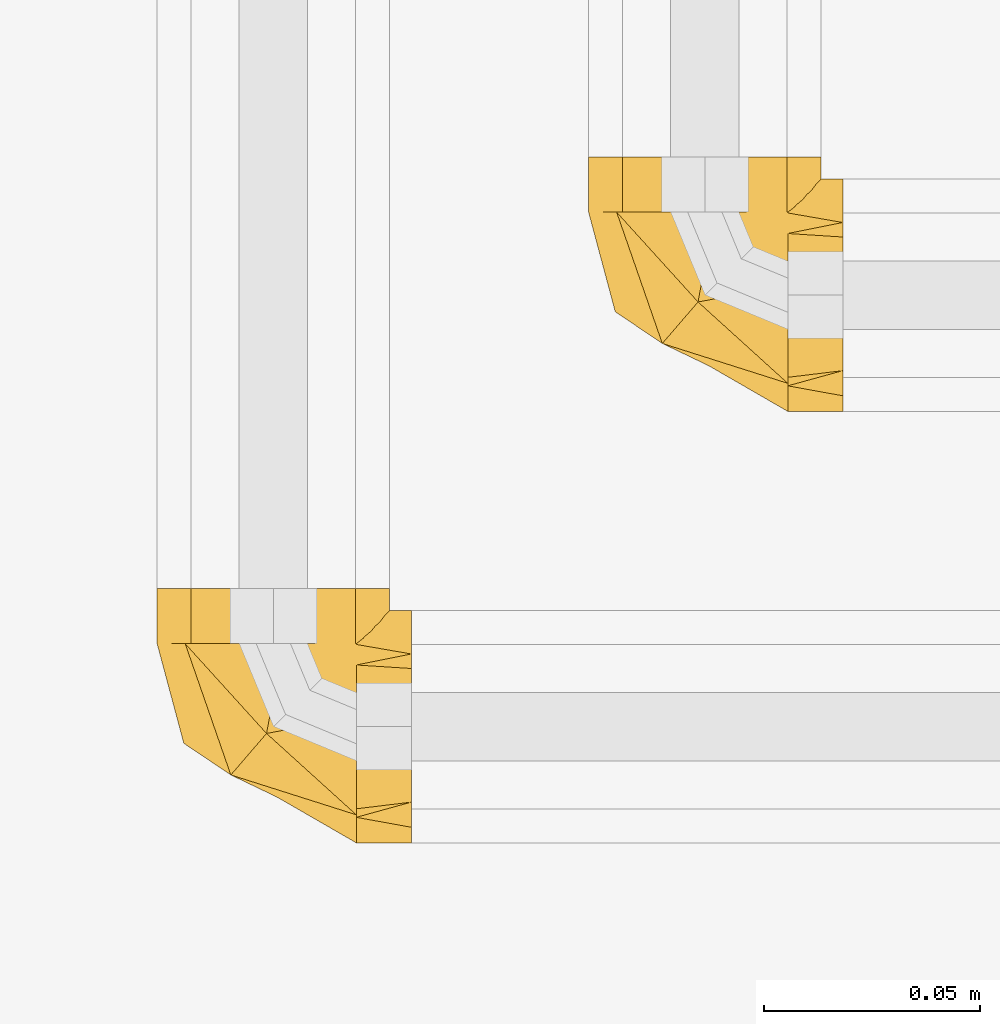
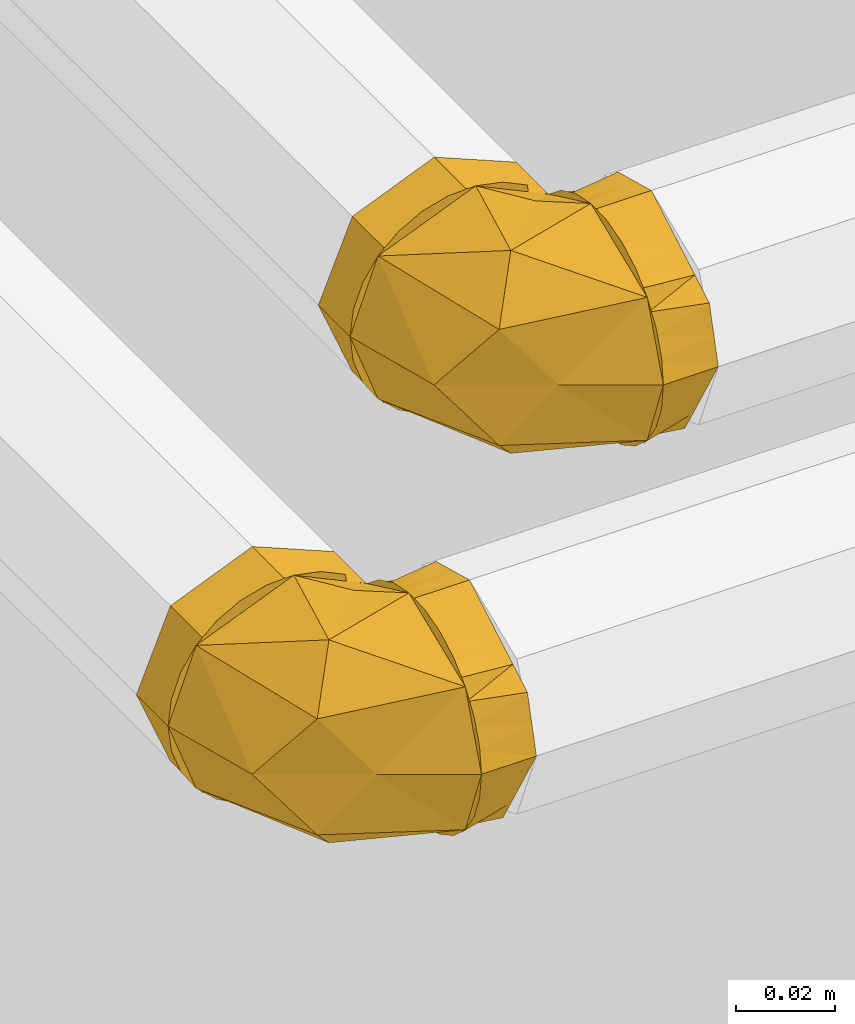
# One storey, part 358 of 652: 2 coverings.
"""IFC2X3 building model written with IfcOpenShell, lengths in millimetres."""

from ifc_helpers import new_model, entity, si_unit, converted_unit, direction, frame, origin, place, context, subcontext, project, spatial, face_set, surface_model, material, type_object, element, save


model = new_model("IFC2X3")

# Units and contexts
model_context = context("Model", 3, precision=0.01, world=frame((0.0, 0.0, 308426.39999999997)), true_north=direction((6.123233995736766e-17, 1.0)))
plan_context = context("Plan", 3, precision=0.01, world=frame((0.0, 0.0, 308426.39999999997)), true_north=direction((6.123233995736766e-17, 1.0)))
body_context = subcontext(model_context, "Body", "Model", "MODEL_VIEW")
ifc_project = project(units=[si_unit("LENGTHUNIT", "METRE", prefix="MILLI"), si_unit("AREAUNIT", "SQUARE_METRE"), si_unit("VOLUMEUNIT", "CUBIC_METRE"), converted_unit("PLANEANGLEUNIT", "DEGREE", entity("IfcPlaneAngleMeasure", 0.017453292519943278), si_unit("PLANEANGLEUNIT", "RADIAN"), dimensions=[0, 0, 0, 0, 0, 0, 0])], contexts=[model_context, plan_context])

# Site, building, storey
site_placement = place(None, origin())
site = spatial("IfcSite", under=ifc_project, at=site_placement, Name="Default", CompositionType="ELEMENT")
building_placement = place(site_placement, origin())
building = spatial("IfcBuilding", under=site, at=building_placement, CompositionType="ELEMENT")
storey_placement = place(building_placement, frame((0.0, 0.0, 1730.6999999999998)))
storey = spatial("IfcBuildingStorey", under=building, at=storey_placement, Name="EG_Produktion_FFB", CompositionType="ELEMENT", Elevation=1730.6999999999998)

# Coverings
ifc_material = material(Name="Dämmung - Armaflex-Schlauch")
covering_type = type_object("IfcCoveringType", Name="Rohrdämmung außen:Armaflex-Schlauch", PredefinedType="INSULATION")
covering_1_placement = place(storey_placement, frame((64541.46722776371, 34921.465677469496, 3671.467227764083)))
element("IfcCovering", 1, at=covering_1_placement, inside=storey, type_object=covering_type, material=ifc_material, Name="Rohrdämmung außen:Armaflex-Schlauch", ObjectType="Rohrdämmung außen:Armaflex-Schlauch", PredefinedType="INSULATION", context=body_context, shape_type="SurfaceModel", body=[
    surface_model("IfcFaceBasedSurfaceModel", [(47.750272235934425, 47.75027223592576, 9.656421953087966), (42.79223424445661, 47.75027223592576, 51.38658262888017), (37.040242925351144, 47.75027223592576, 54.09156424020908), (30.81456370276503, 47.75027223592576, 55.373456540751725), (24.461836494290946, 47.7502722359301, 55.16088498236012), (18.3357751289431, 47.7502722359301, 53.46568534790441), (12.777472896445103, 47.7502722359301, 50.38224474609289), (8.096410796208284, 47.7502722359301, 46.08224622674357), (4.553225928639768, 47.7502722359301, 40.80510963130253), (2.345199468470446, 47.7502722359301, 34.844660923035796), (1.5952722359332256, 47.7502722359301, 28.53277223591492), (2.345199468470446, 47.7502722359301, 22.220883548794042), (4.553225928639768, 47.7502722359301, 16.26043484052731), (8.096410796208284, 47.7502722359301, 10.983298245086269), (12.777472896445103, 47.7502722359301, 6.683299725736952), (18.3357751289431, 47.7502722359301, 3.599859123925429), (24.461836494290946, 47.7502722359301, 1.904659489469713), (30.81456370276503, 47.75027223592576, 1.6920879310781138), (37.040242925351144, 47.75027223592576, 2.9739802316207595), (42.79223424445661, 47.75027223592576, 5.678961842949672), (47.750272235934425, 47.75027223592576, 47.409122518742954), (47.750272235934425, 42.79223424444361, 5.678961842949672), (47.750272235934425, 37.04024292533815, 2.9739802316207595), (47.750272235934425, 30.81456370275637, 1.6920879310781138), (47.750272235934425, 24.461836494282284, 1.904659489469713), (47.750272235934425, 18.33577512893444, 3.599859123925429), (47.750272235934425, 12.77747289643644, 6.683299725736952), (47.75027223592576, 8.09641079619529, 10.983298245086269), (47.75027223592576, 4.553225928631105, 16.26043484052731), (47.75027223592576, 2.3451994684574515, 22.220883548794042), (47.75027223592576, 1.5952722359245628, 28.53277223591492), (47.75027223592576, 2.3451994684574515, 34.844660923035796), (47.75027223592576, 4.553225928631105, 40.80510963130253), (47.75027223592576, 8.09641079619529, 46.08224622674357), (47.750272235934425, 12.77747289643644, 50.38224474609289), (47.750272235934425, 18.33577512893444, 53.46568534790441), (47.750272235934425, 24.461836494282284, 55.16088498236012), (47.750272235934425, 30.81456370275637, 55.373456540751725), (47.750272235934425, 37.04024292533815, 54.09156424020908), (47.750272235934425, 42.79223424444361, 51.38658262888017), (39.069918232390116, 37.807424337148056, 2.2761468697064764), (7.778804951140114, 24.673342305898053, 28.532683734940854), (19.457161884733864, 47.751003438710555, 6.337526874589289), (26.949727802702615, 26.949947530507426, 3.599903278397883), (18.675814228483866, 17.331929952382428, 14.285297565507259), (29.484456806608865, 12.139223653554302, 28.532683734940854), (47.74845827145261, 19.455056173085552, 6.337526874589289), (18.675814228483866, 17.331929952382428, 42.78006990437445), (26.949727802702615, 26.949947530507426, 53.465464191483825), (39.069918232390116, 37.807424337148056, 54.78922060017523), (47.74845827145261, 19.455056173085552, 50.72784059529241), (19.457161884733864, 47.751003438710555, 50.72784059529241), (1.5952722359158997, 60.51652223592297, 28.532772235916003), (3.567725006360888, 60.51652223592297, 33.29469446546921), (5.54017777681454, 60.51652223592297, 38.05661669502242), (7.512630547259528, 60.51652223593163, 42.818538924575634), (9.485083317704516, 60.51652223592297, 47.58046115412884), (14.247005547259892, 60.516522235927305, 49.552913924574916), (19.008927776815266, 60.516522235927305, 51.525366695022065), (23.77085000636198, 60.516522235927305, 53.49781946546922), (28.532772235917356, 60.516522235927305, 55.470272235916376), (33.29469446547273, 60.51652223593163, 53.49781946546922), (38.05661669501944, 60.51652223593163, 51.525366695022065), (42.81853892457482, 60.51652223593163, 49.552913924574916), (47.5804611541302, 60.51652223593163, 47.58046115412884), (49.552913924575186, 60.51652223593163, 42.818538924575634), (51.525366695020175, 60.51652223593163, 38.05661669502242), (53.49781946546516, 60.51652223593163, 33.29469446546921), (55.47027223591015, 60.51652223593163, 28.532772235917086), (53.497819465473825, 60.51652223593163, 23.770850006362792), (51.525366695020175, 60.51652223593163, 19.008927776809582), (49.552913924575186, 60.51652223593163, 14.247005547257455), (47.5804611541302, 60.51652223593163, 9.485083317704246), (42.81853892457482, 60.516522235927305, 7.512630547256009), (38.05661669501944, 60.51652223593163, 5.540177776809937), (33.29469446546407, 60.51652223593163, 3.567725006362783), (28.532772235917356, 60.516522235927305, 1.595272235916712), (23.770850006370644, 60.51652223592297, 3.567725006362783), (19.008927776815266, 60.516522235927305, 5.540177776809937), (14.247005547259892, 60.516522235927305, 7.512630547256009), (9.485083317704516, 60.51652223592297, 9.485083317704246), (7.512630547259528, 60.516522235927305, 14.247005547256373), (5.54017777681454, 60.51652223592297, 19.008927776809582), (3.567725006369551, 60.51652223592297, 23.770850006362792), (1.5952722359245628, 47.750272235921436, 28.532772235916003), (3.567725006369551, 47.750272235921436, 23.770850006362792), (5.54017777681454, 47.750272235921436, 19.0089277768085), (7.512630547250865, 47.750272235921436, 14.24700554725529), (9.48508331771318, 47.750272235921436, 9.485083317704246), (15.253472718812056, 47.750272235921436, 7.095738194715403), (21.02186211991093, 47.750272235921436, 4.7063930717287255), (28.532772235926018, 47.75027223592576, 1.595272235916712), (33.29469446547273, 47.75027223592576, 3.567725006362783), (38.05661669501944, 47.7502722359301, 5.540177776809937), (42.81853892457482, 47.7502722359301, 7.512630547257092), (47.58046115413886, 47.7502722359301, 9.485083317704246), (49.96980627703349, 47.7502722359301, 15.25347271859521), (52.35915139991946, 47.7502722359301, 21.021862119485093), (55.47027223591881, 47.7502722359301, 28.532772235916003), (53.497819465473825, 47.7502722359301, 33.29469446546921), (51.525366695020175, 47.7502722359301, 38.05661669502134), (49.552913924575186, 47.7502722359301, 42.81853892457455), (47.58046115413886, 47.7502722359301, 47.58046115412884), (41.81207175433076, 47.7502722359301, 49.96980627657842), (36.043682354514, 47.7502722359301, 52.359151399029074), (28.532772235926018, 47.75027223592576, 55.470272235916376), (23.77085000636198, 47.75027223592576, 53.49781946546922), (19.008927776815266, 47.750272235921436, 51.52536669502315), (14.247005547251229, 47.750272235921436, 49.552913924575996), (9.48508331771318, 47.750272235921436, 47.58046115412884), (7.095738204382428, 47.750272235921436, 41.81207177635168), (4.706393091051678, 47.750272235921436, 36.043682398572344), (60.51652223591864, 1.5952722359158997, 28.532772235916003), (60.516522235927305, 4.962459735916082, 22.700632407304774), (60.516522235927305, 8.329647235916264, 16.868492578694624), (60.516522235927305, 11.696834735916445, 11.036352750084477), (60.51652223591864, 15.064022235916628, 5.204212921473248), (60.51652223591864, 21.79839723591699, 3.399742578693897), (60.51652223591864, 28.532772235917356, 1.595272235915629), (60.516522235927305, 34.36491206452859, 4.962459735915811), (60.516522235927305, 40.197051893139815, 8.329647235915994), (60.51652223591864, 46.02919172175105, 11.696834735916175), (60.51652223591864, 51.86133155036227, 15.064022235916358), (60.51652223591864, 53.66580189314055, 21.79839723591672), (60.51652223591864, 55.47027223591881, 28.532772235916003), (60.516522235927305, 52.10308473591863, 34.36491206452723), (60.516522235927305, 48.73589723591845, 40.19705189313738), (60.516522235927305, 45.368709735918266, 46.02919172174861), (60.51652223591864, 42.00152223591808, 51.86133155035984), (60.51652223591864, 35.26714723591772, 53.66580189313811), (60.51652223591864, 28.532772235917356, 55.470272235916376), (60.516522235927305, 22.700632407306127, 52.10308473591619), (60.516522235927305, 16.868492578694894, 48.73589723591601), (60.516522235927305, 11.036352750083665, 45.36870973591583), (60.51652223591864, 5.204212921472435, 42.00152223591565), (60.51652223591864, 3.3997425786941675, 35.26714723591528), (47.75027223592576, 33.2946944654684, 53.49781946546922), (47.75027223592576, 38.05661669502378, 51.525366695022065), (47.75027223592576, 42.81853892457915, 49.552913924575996), (47.75027223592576, 47.5804611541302, 47.58046115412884), (47.75027223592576, 49.552913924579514, 42.818538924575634), (47.75027223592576, 51.5253666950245, 38.05661669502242), (47.75027223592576, 53.49781946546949, 33.29469446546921), (47.75027223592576, 55.47027223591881, 28.532772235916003), (47.75027223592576, 53.497819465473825, 23.770850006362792), (47.75027223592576, 51.5253666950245, 19.008927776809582), (47.75027223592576, 49.552913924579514, 14.247005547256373), (47.75027223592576, 47.5804611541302, 9.485083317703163), (47.75027223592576, 42.81853892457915, 7.512630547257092), (47.75027223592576, 38.05661669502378, 5.540177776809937), (47.750272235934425, 33.29469446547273, 3.567725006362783), (47.75027223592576, 28.532772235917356, 1.595272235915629), (47.75027223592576, 23.77085000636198, 3.567725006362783), (47.75027223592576, 19.008927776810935, 5.540177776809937), (47.7502722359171, 14.24700554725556, 7.512630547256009), (47.75027223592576, 9.485083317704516, 9.485083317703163), (47.75027223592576, 7.512630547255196, 14.247005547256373), (47.75027223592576, 5.540177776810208, 19.008927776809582), (47.7502722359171, 3.567725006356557, 23.77085000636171), (47.75027223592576, 1.5952722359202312, 28.532772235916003), (47.75027223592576, 3.5677250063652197, 33.29469446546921), (47.75027223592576, 5.540177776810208, 38.05661669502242), (47.7502722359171, 7.512630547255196, 42.81853892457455), (47.75027223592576, 9.485083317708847, 47.58046115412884), (47.75027223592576, 14.247005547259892, 49.552913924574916), (47.75027223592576, 19.008927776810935, 51.525366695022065), (47.75027223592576, 23.77085000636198, 53.49781946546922), (47.75027223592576, 28.532772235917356, 55.470272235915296)], [face_set([[[0, 1, 2, 3, 4, 5, 6, 7, 8, 9, 10, 11, 12, 13, 14, 15, 16, 17, 18, 19]], [[20, 21, 22, 23, 24, 25, 26, 27, 28, 29, 30, 31, 32, 33, 34, 35, 36, 37, 38, 39]], [[0, 40, 17]], [[10, 13, 41]], [[42, 17, 43]], [[40, 43, 17]], [[23, 40, 0]], [[13, 43, 44]], [[45, 41, 44]], [[13, 44, 41]], [[27, 30, 45]], [[45, 44, 27]], [[43, 27, 44]], [[43, 23, 46, 27]], [[43, 13, 42]], [[23, 43, 40]], [[7, 10, 41]], [[33, 47, 45]], [[45, 30, 33]], [[48, 47, 33]], [[49, 48, 37]], [[50, 37, 48, 33]], [[45, 47, 41]], [[20, 49, 37]], [[47, 48, 7]], [[3, 49, 20]], [[41, 47, 7]], [[48, 3, 51]], [[3, 48, 49]], [[51, 7, 48]]]), face_set([[[52, 53, 54, 55, 56, 57, 58, 59, 60, 61, 62, 63, 64, 65, 66, 67, 68, 69, 70, 71, 72, 73, 74, 75, 76, 77, 78, 79, 80, 81, 82, 83]], [[84, 85, 86, 87, 88, 89, 90, 91, 92, 93, 94, 95, 96, 97, 98, 99, 100, 101, 102, 103, 104, 105, 106, 107, 108, 109, 110, 111]], [[111, 110, 109, 56, 55, 54, 53, 52, 84]], [[56, 109, 108, 107, 106, 105, 60, 59, 58, 57]], [[104, 103, 102, 64, 63, 62, 61, 60, 105]], [[64, 102, 101, 100, 99, 98, 68, 67, 66, 65]], [[97, 96, 95, 72, 71, 70, 69, 68, 98]], [[72, 95, 94, 93, 92, 91, 76, 75, 74, 73]], [[90, 89, 88, 80, 79, 78, 77, 76, 91]], [[80, 88, 87, 86, 85, 84, 52, 83, 82, 81]]]), face_set([[[112, 113, 114, 115, 116, 117, 118, 119, 120, 121, 122, 123, 124, 125, 126, 127, 128, 129, 130, 131, 132, 133, 134, 135]], [[136, 137, 138, 139, 140, 141, 142, 143, 144, 145, 146, 147, 148, 149, 150, 151, 152, 153, 154, 155, 156, 157, 158, 159, 160, 161, 162, 163, 164, 165, 166, 167]], [[146, 121, 147]], [[118, 150, 119]], [[150, 149, 119]], [[123, 145, 144]], [[144, 143, 124]], [[121, 146, 122]], [[120, 149, 148]], [[118, 151, 150]], [[149, 120, 119]], [[124, 123, 144]], [[148, 147, 121]], [[146, 145, 122]], [[123, 122, 145]], [[120, 148, 121]], [[154, 115, 155]], [[112, 158, 113]], [[158, 157, 113]], [[117, 153, 152]], [[152, 151, 118]], [[115, 154, 116]], [[114, 157, 156]], [[112, 159, 158]], [[157, 114, 113]], [[118, 117, 152]], [[156, 155, 115]], [[154, 153, 116]], [[117, 116, 153]], [[114, 156, 115]], [[162, 133, 163]], [[130, 166, 131]], [[166, 165, 131]], [[135, 161, 160]], [[160, 159, 112]], [[133, 162, 134]], [[132, 165, 164]], [[130, 167, 166]], [[165, 132, 131]], [[112, 135, 160]], [[164, 163, 133]], [[162, 161, 134]], [[135, 134, 161]], [[132, 164, 133]], [[138, 127, 139]], [[124, 142, 125]], [[142, 141, 125]], [[129, 137, 136]], [[136, 167, 130]], [[127, 138, 128]], [[126, 141, 140]], [[124, 143, 142]], [[141, 126, 125]], [[130, 129, 136]], [[140, 139, 127]], [[138, 137, 128]], [[129, 128, 137]], [[126, 140, 127]]])]),
])
covering_2_placement = place(storey_placement, frame((64641.4672277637, 35021.4656774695, 3671.4672277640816)))
element("IfcCovering", 2, at=covering_2_placement, inside=storey, type_object=covering_type, material=ifc_material, Name="Rohrdämmung außen:Armaflex-Schlauch", ObjectType="Rohrdämmung außen:Armaflex-Schlauch", PredefinedType="INSULATION", context=body_context, shape_type="SurfaceModel", body=[
    surface_model("IfcFaceBasedSurfaceModel", [(47.750272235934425, 47.75027223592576, 9.656421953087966), (42.79223424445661, 47.75027223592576, 51.38658262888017), (37.040242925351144, 47.75027223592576, 54.09156424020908), (30.81456370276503, 47.75027223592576, 55.373456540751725), (24.461836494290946, 47.7502722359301, 55.16088498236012), (18.3357751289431, 47.7502722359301, 53.46568534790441), (12.777472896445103, 47.7502722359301, 50.38224474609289), (8.096410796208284, 47.7502722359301, 46.08224622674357), (4.553225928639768, 47.7502722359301, 40.80510963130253), (2.345199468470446, 47.7502722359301, 34.844660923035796), (1.5952722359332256, 47.7502722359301, 28.53277223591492), (2.345199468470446, 47.7502722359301, 22.220883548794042), (4.553225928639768, 47.7502722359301, 16.26043484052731), (8.096410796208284, 47.7502722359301, 10.983298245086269), (12.777472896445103, 47.7502722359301, 6.683299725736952), (18.3357751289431, 47.7502722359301, 3.599859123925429), (24.461836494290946, 47.7502722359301, 1.904659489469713), (30.81456370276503, 47.75027223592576, 1.6920879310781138), (37.040242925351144, 47.75027223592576, 2.9739802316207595), (42.79223424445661, 47.75027223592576, 5.678961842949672), (47.750272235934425, 47.75027223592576, 47.409122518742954), (47.750272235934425, 42.79223424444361, 5.678961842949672), (47.750272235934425, 37.04024292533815, 2.9739802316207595), (47.750272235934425, 30.81456370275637, 1.6920879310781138), (47.750272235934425, 24.461836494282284, 1.904659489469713), (47.750272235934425, 18.33577512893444, 3.599859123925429), (47.750272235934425, 12.77747289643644, 6.683299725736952), (47.75027223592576, 8.09641079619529, 10.983298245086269), (47.75027223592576, 4.553225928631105, 16.26043484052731), (47.75027223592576, 2.3451994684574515, 22.220883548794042), (47.75027223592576, 1.5952722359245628, 28.53277223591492), (47.75027223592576, 2.3451994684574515, 34.844660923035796), (47.75027223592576, 4.553225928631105, 40.80510963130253), (47.75027223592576, 8.09641079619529, 46.08224622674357), (47.750272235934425, 12.77747289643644, 50.38224474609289), (47.750272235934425, 18.33577512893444, 53.46568534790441), (47.750272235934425, 24.461836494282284, 55.16088498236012), (47.750272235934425, 30.81456370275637, 55.373456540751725), (47.750272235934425, 37.04024292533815, 54.09156424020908), (47.750272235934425, 42.79223424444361, 51.38658262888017), (39.06846559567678, 37.80829713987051, 2.2761468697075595), (7.777352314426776, 24.67188966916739, 28.532683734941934), (19.455709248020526, 47.749550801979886, 6.337526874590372), (26.952926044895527, 26.95082033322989, 3.5999032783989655), (18.674361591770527, 17.33280275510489, 14.28529756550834), (29.487655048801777, 12.140096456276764, 28.532683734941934), (47.75165651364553, 19.455928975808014, 6.337526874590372), (18.674361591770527, 17.33280275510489, 42.78006990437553), (26.952926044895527, 26.95082033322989, 53.465464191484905), (39.06846559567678, 37.80829713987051, 54.789220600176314), (47.75165651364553, 19.455928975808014, 50.7278405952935), (19.455709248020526, 47.749550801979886, 50.7278405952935), (1.5952722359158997, 60.51652223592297, 28.532772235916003), (3.567725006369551, 60.51652223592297, 33.29469446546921), (5.54017777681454, 60.51652223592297, 38.05661669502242), (7.512630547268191, 60.51652223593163, 42.818538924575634), (9.485083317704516, 60.51652223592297, 47.58046115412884), (14.247005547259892, 60.516522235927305, 49.552913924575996), (19.008927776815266, 60.516522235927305, 51.52536669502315), (23.770850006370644, 60.516522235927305, 53.49781946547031), (28.532772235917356, 60.516522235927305, 55.470272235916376), (33.29469446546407, 60.51652223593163, 53.49781946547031), (38.05661669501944, 60.51652223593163, 51.52536669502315), (42.81853892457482, 60.51652223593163, 49.552913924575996), (47.5804611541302, 60.51652223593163, 47.58046115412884), (49.552913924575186, 60.51652223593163, 42.818538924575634), (51.525366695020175, 60.51652223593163, 38.05661669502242), (53.497819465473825, 60.51652223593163, 33.29469446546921), (55.47027223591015, 60.51652223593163, 28.532772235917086), (53.49781946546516, 60.51652223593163, 23.770850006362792), (51.525366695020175, 60.51652223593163, 19.008927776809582), (49.55291392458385, 60.51652223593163, 14.247005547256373), (47.5804611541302, 60.51652223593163, 9.485083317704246), (42.81853892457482, 60.516522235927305, 7.512630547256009), (38.05661669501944, 60.51652223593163, 5.5401777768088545), (33.29469446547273, 60.51652223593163, 3.5677250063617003), (28.532772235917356, 60.516522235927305, 1.595272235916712), (23.77085000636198, 60.51652223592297, 3.567725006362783), (19.008927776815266, 60.516522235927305, 5.5401777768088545), (14.247005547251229, 60.516522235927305, 7.512630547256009), (9.485083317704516, 60.51652223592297, 9.485083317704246), (7.512630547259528, 60.516522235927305, 14.247005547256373), (5.54017777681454, 60.51652223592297, 19.008927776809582), (3.567725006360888, 60.51652223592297, 23.770850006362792), (1.5952722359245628, 47.750272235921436, 28.532772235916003), (3.567725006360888, 47.750272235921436, 23.770850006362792), (5.54017777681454, 47.750272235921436, 19.008927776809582), (7.512630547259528, 47.750272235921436, 14.24700554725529), (9.48508331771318, 47.750272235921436, 9.485083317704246), (15.253472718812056, 47.750272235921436, 7.095738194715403), (21.021862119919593, 47.750272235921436, 4.706393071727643), (28.532772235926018, 47.75027223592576, 1.595272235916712), (33.29469446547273, 47.75027223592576, 3.567725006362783), (38.05661669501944, 47.7502722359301, 5.540177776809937), (42.81853892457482, 47.7502722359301, 7.512630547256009), (47.58046115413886, 47.7502722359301, 9.485083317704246), (49.96980627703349, 47.7502722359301, 15.25347271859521), (52.35915139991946, 47.7502722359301, 21.021862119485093), (55.47027223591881, 47.7502722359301, 28.532772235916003), (53.49781946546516, 47.7502722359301, 33.29469446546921), (51.525366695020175, 47.7502722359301, 38.05661669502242), (49.55291392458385, 47.7502722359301, 42.81853892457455), (47.58046115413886, 47.7502722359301, 47.58046115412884), (41.81207175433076, 47.7502722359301, 49.96980627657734), (36.043682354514, 47.7502722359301, 52.35915139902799), (28.532772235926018, 47.75027223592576, 55.470272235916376), (23.77085000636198, 47.75027223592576, 53.49781946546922), (19.008927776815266, 47.750272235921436, 51.52536669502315), (14.247005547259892, 47.750272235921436, 49.552913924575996), (9.48508331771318, 47.750272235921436, 47.58046115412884), (7.095738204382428, 47.750272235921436, 41.81207177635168), (4.706393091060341, 47.750272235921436, 36.043682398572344), (60.51652223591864, 1.5952722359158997, 28.532772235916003), (60.516522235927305, 4.962459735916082, 22.700632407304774), (60.516522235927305, 8.329647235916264, 16.868492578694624), (60.51652223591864, 11.696834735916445, 11.036352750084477), (60.51652223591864, 15.064022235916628, 5.204212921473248), (60.51652223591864, 21.79839723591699, 3.3997425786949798), (60.51652223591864, 28.532772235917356, 1.595272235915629), (60.516522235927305, 34.36491206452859, 4.962459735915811), (60.516522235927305, 40.197051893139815, 8.329647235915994), (60.51652223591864, 46.02919172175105, 11.696834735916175), (60.51652223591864, 51.86133155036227, 15.064022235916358), (60.51652223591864, 53.66580189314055, 21.798397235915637), (60.51652223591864, 55.47027223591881, 28.532772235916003), (60.516522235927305, 52.10308473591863, 34.36491206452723), (60.516522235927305, 48.73589723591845, 40.197051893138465), (60.516522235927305, 45.368709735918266, 46.02919172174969), (60.51652223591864, 42.00152223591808, 51.86133155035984), (60.51652223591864, 35.26714723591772, 53.66580189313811), (60.51652223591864, 28.532772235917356, 55.470272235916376), (60.516522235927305, 22.700632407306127, 52.10308473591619), (60.516522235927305, 16.868492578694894, 48.73589723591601), (60.516522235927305, 11.036352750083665, 45.368709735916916), (60.51652223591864, 5.204212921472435, 42.00152223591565), (60.51652223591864, 3.3997425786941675, 35.26714723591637), (47.75027223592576, 33.2946944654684, 53.49781946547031), (47.75027223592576, 38.05661669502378, 51.52536669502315), (47.75027223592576, 42.81853892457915, 49.552913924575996), (47.75027223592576, 47.5804611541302, 47.58046115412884), (47.75027223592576, 49.552913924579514, 42.818538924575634), (47.75027223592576, 51.5253666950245, 38.05661669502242), (47.75027223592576, 53.49781946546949, 33.29469446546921), (47.75027223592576, 55.47027223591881, 28.532772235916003), (47.75027223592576, 53.497819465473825, 23.770850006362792), (47.75027223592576, 51.5253666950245, 19.008927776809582), (47.750272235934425, 49.552913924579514, 14.247005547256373), (47.75027223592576, 47.5804611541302, 9.485083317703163), (47.75027223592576, 42.81853892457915, 7.512630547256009), (47.75027223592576, 38.05661669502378, 5.5401777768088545), (47.75027223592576, 33.29469446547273, 3.567725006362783), (47.75027223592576, 28.532772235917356, 1.595272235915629), (47.75027223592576, 23.77085000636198, 3.5677250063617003), (47.75027223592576, 19.008927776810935, 5.5401777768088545), (47.75027223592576, 14.24700554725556, 7.512630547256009), (47.75027223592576, 9.485083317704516, 9.485083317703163), (47.75027223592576, 7.512630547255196, 14.247005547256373), (47.75027223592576, 5.540177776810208, 19.008927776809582), (47.75027223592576, 3.567725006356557, 23.770850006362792), (47.75027223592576, 1.5952722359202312, 28.532772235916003), (47.75027223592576, 3.5677250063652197, 33.29469446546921), (47.75027223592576, 5.540177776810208, 38.05661669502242), (47.75027223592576, 7.512630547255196, 42.818538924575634), (47.75027223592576, 9.485083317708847, 47.58046115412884), (47.75027223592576, 14.247005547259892, 49.552913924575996), (47.75027223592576, 19.008927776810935, 51.52536669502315), (47.75027223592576, 23.77085000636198, 53.49781946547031), (47.75027223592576, 28.532772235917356, 55.470272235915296)], [face_set([[[0, 1, 2, 3, 4, 5, 6, 7, 8, 9, 10, 11, 12, 13, 14, 15, 16, 17, 18, 19]], [[20, 21, 22, 23, 24, 25, 26, 27, 28, 29, 30, 31, 32, 33, 34, 35, 36, 37, 38, 39]], [[0, 40, 17]], [[10, 13, 41]], [[42, 17, 43, 13]], [[40, 43, 17]], [[23, 40, 0]], [[13, 43, 44]], [[45, 41, 44]], [[13, 44, 41]], [[27, 30, 45]], [[45, 44, 27]], [[43, 27, 44]], [[43, 23, 46, 27]], [[23, 43, 40]], [[7, 10, 41]], [[33, 47, 45]], [[45, 30, 33]], [[48, 47, 33]], [[49, 48, 37]], [[50, 37, 48, 33]], [[45, 47, 41]], [[20, 49, 37]], [[47, 48, 7]], [[3, 49, 20]], [[41, 47, 7]], [[48, 3, 51, 7]], [[3, 48, 49]]]), face_set([[[52, 53, 54, 55, 56, 57, 58, 59, 60, 61, 62, 63, 64, 65, 66, 67, 68, 69, 70, 71, 72, 73, 74, 75, 76, 77, 78, 79, 80, 81, 82, 83]], [[84, 85, 86, 87, 88, 89, 90, 91, 92, 93, 94, 95, 96, 97, 98, 99, 100, 101, 102, 103, 104, 105, 106, 107, 108, 109, 110, 111]], [[111, 110, 109, 56, 55, 54, 53, 52, 84]], [[56, 109, 108, 107, 106, 105, 60, 59, 58, 57]], [[104, 103, 102, 64, 63, 62, 61, 60, 105]], [[64, 102, 101, 100, 99, 98, 68, 67, 66, 65]], [[97, 96, 95, 72, 71, 70, 69, 68, 98]], [[72, 95, 94, 93, 92, 91, 76, 75, 74, 73]], [[90, 89, 88, 80, 79, 78, 77, 76, 91]], [[80, 88, 87, 86, 85, 84, 52, 83, 82, 81]]]), face_set([[[112, 113, 114, 115, 116, 117, 118, 119, 120, 121, 122, 123, 124, 125, 126, 127, 128, 129, 130, 131, 132, 133, 134, 135]], [[136, 137, 138, 139, 140, 141, 142, 143, 144, 145, 146, 147, 148, 149, 150, 151, 152, 153, 154, 155, 156, 157, 158, 159, 160, 161, 162, 163, 164, 165, 166, 167]], [[146, 121, 147]], [[118, 150, 119]], [[150, 149, 119]], [[123, 145, 144]], [[144, 143, 124]], [[121, 146, 122]], [[120, 149, 148]], [[118, 151, 150]], [[149, 120, 119]], [[124, 123, 144]], [[148, 147, 121]], [[146, 145, 122]], [[123, 122, 145]], [[120, 148, 121]], [[154, 115, 155]], [[112, 158, 113]], [[158, 157, 113]], [[117, 153, 152]], [[152, 151, 118]], [[115, 154, 116]], [[114, 157, 156]], [[112, 159, 158]], [[157, 114, 113]], [[118, 117, 152]], [[156, 155, 115]], [[154, 153, 116]], [[117, 116, 153]], [[114, 156, 115]], [[162, 133, 163]], [[130, 166, 131]], [[166, 165, 131]], [[135, 161, 160]], [[160, 159, 112]], [[133, 162, 134]], [[132, 165, 164]], [[130, 167, 166]], [[165, 132, 131]], [[112, 135, 160]], [[164, 163, 133]], [[162, 161, 134]], [[135, 134, 161]], [[132, 164, 133]], [[138, 127, 139]], [[124, 142, 125]], [[142, 141, 125]], [[129, 137, 136]], [[136, 167, 130]], [[127, 138, 128]], [[126, 141, 140]], [[124, 143, 142]], [[141, 126, 125]], [[130, 129, 136]], [[140, 139, 127]], [[138, 137, 128]], [[129, 128, 137]], [[126, 140, 127]]])]),
])

save(model, "model.ifc")
